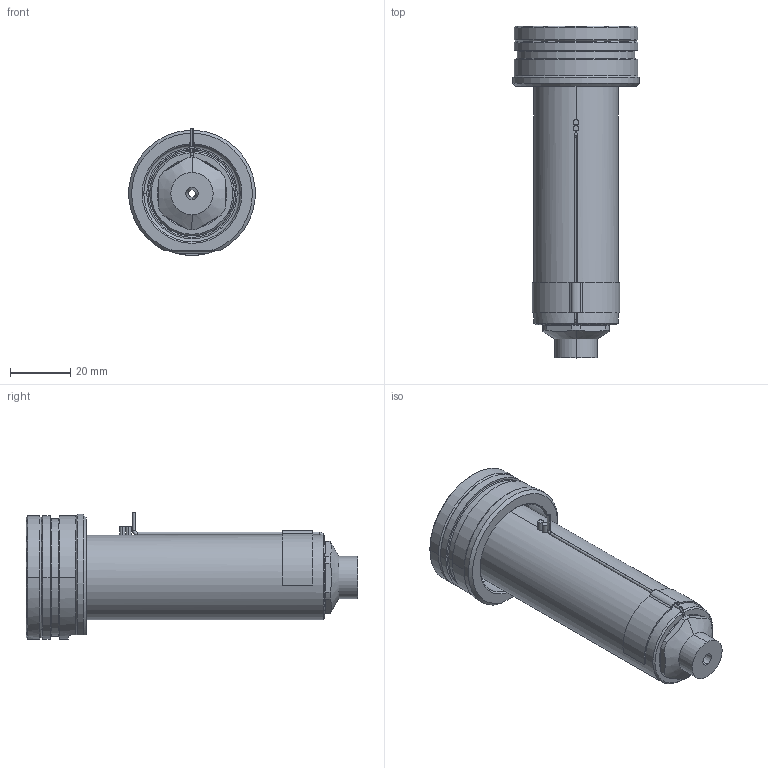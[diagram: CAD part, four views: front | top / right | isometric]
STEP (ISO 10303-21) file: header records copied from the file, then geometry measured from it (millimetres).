
FILE_DESCRIPTION((''),'2;1');
FILE_NAME('EO10_VG-ST_STD_090_SW','2024-02-19T12:45:59',('sundharh'),(''),'CREO PARAMETRIC BY PTC INC, 2023154','CREO PARAMETRIC BY PTC INC, 2023154','');
FILE_SCHEMA(('CONFIG_CONTROL_DESIGN'));
Length unit declared in the file: millimetre
Products named in the file (1): EO10_VG-ST_STD_090_SW
Bounding box: 41.85 x 110 x 42.02 mm (x, y, z)
Volume: 67331.5 mm3; surface area: 19036.9 mm2
Topology: 1 solids, 1 shells, 165 faces, 424 edges, 263 vertices
Faces by surface type: cylinder 63, plane 45, cone 33, torus 17, bspline 5, sphere 2
Entity records: 5751 total; most frequent: CARTESIAN_POINT 1647, DIRECTION 895, ORIENTED_EDGE 844, EDGE_CURVE 422, AXIS2_PLACEMENT_3D 369, VERTEX_POINT 263, CIRCLE 209, EDGE_LOOP 179
